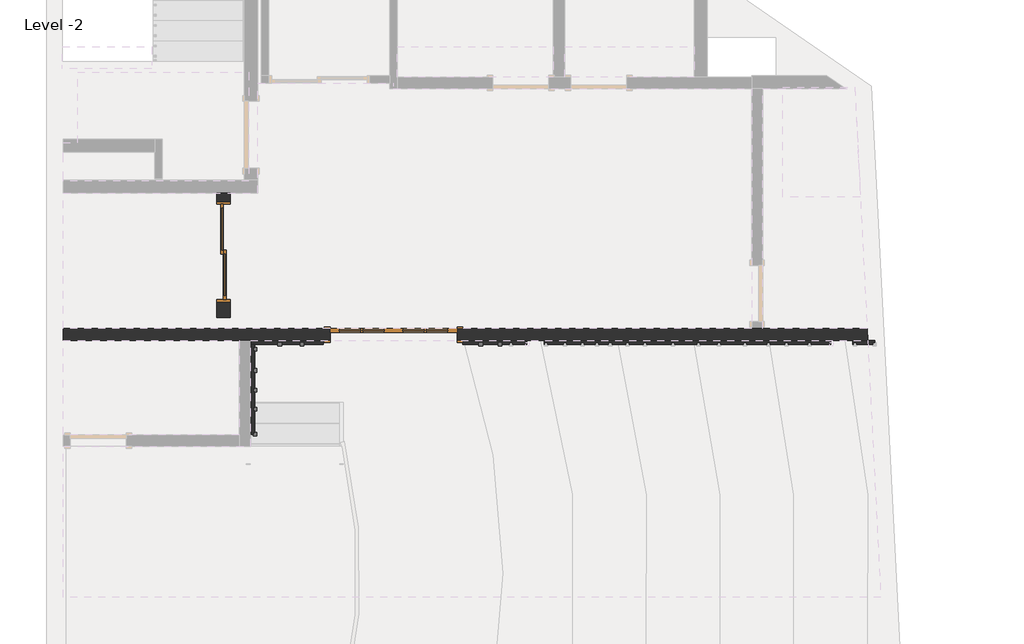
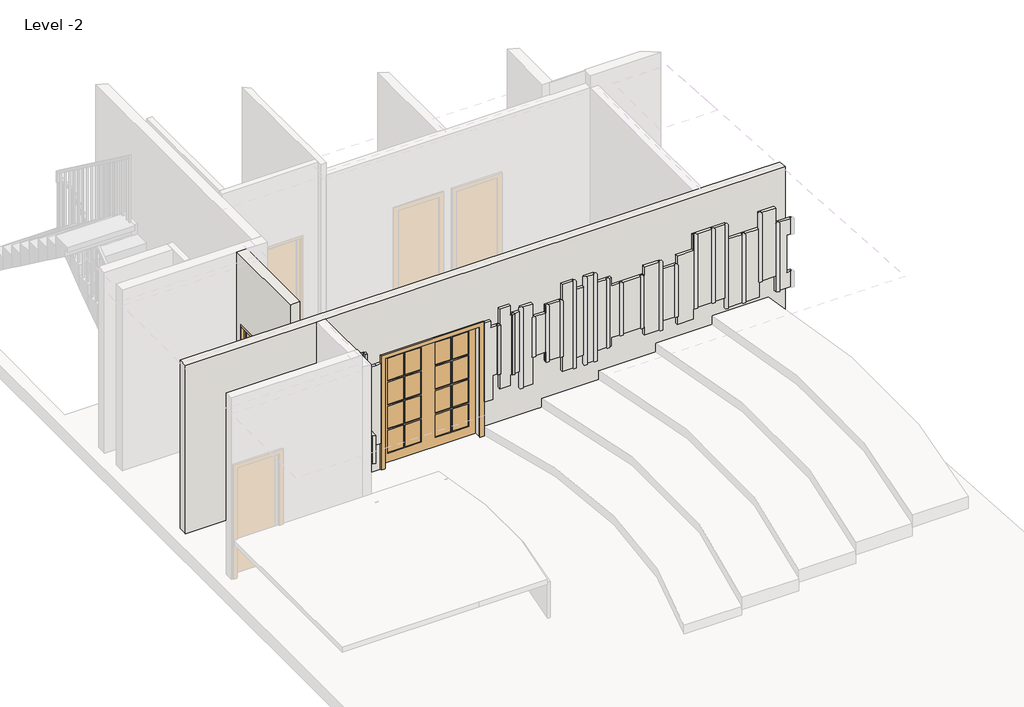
# One storey, part 3 of 6: 9 proxies, 4 walls, 2 doors.
"""IFC4 building model written with IfcOpenShell, lengths in millimetres."""

from ifc_helpers import new_model, si_unit, frame, origin, place, context, project, spatial, polyline, outline, extrude, faceted_brep, transform, mapped, element, save
from components import m_double_glass_2_1730_x_2134mm_148375e1, sliding_door_2_panel_aus_f73f6a40

model = new_model("IFC4")

# Units and contexts
model_context = context("Model", 3, world=origin())
ifc_project = project(units=[si_unit("LENGTHUNIT", "METRE", prefix="MILLI")], contexts=[model_context])

# Site, building, storey
site = spatial("IfcSite", under=ifc_project)
building = spatial("IfcBuilding", under=site)
storey = spatial("IfcBuildingStorey", under=building, Name="Level -2", Elevation=-7000.0)

# Proxies
placement = place(None, origin())
element("IfcBuildingElementProxy", 1, Name="Reveal", ObjectType="Reveal", at=placement, inside=storey, context=model_context, shape_type="SweptSolid", body=[
    extrude(outline(polyline([(3177.0430077, 6497.7142109), (3227.0430077, 6497.7142109), (3227.0430077, 6447.7142109), (3177.0430077, 6447.7142109), (3177.0430077, 6497.7142109)])), frame((0.0, 0.0, -6462.0582782), z_axis=(0.0, 0.0, 1.0), x_axis=(1.0, 0.0, 0.0)), (0.0, 0.0, 1.0), 1842.6614901),
])
element("IfcBuildingElementProxy", 2, Name="Reveal", ObjectType="Reveal", at=placement, inside=storey, context=model_context, shape_type="SweptSolid", body=[
    extrude(outline(polyline([(2877.0430077, 6497.7142109), (2927.0430077, 6497.7142109), (2927.0430077, 6447.7142109), (2877.0430077, 6447.7142109), (2877.0430077, 6497.7142109)])), frame((0.0, 0.0, -6162.0582782), z_axis=(0.0, 0.0, 1.0), x_axis=(1.0, 0.0, 0.0)), (0.0, 0.0, 1.0), 1542.6614901),
])
element("IfcBuildingElementProxy", 3, Name="Reveal", ObjectType="Reveal", at=placement, inside=storey, context=model_context, shape_type="SweptSolid", body=[
    extrude(outline(polyline([(5612.3539947, 6497.7142109), (5662.3539947, 6497.7142109), (5662.3539947, 6447.7142109), (5612.3539947, 6447.7142109), (5612.3539947, 6497.7142109)])), frame((0.0, 0.0, -5862.0582782), z_axis=(0.0, 0.0, 1.0), x_axis=(1.0, 0.0, 0.0)), (0.0, 0.0, 1.0), 942.6614901),
])
element("IfcBuildingElementProxy", 4, Name="Reveal", ObjectType="Reveal", at=placement, inside=storey, context=model_context, shape_type="SweptSolid", body=[
    extrude(outline(polyline([(5877.0430077, 6497.7142109), (5927.0430077, 6497.7142109), (5927.0430077, 6447.7142109), (5877.0430077, 6447.7142109), (5877.0430077, 6497.7142109)])), frame((0.0, 0.0, -5960.603212), z_axis=(0.0, 0.0, 1.0), x_axis=(1.0, 0.0, 0.0)), (0.0, 0.0, 1.0), 1161.206424),
])
element("IfcBuildingElementProxy", 5, Name="Reveal", ObjectType="Reveal", at=placement, inside=storey, context=model_context, shape_type="SweptSolid", body=[
    extrude(outline(polyline([(2537.3539947, 5222.7142109), (2537.3539947, 5272.7142109), (2587.3539947, 5272.7142109), (2587.3539947, 5222.7142109), (2537.3539947, 5222.7142109)])), frame((0.0, 0.0, -6241.0), z_axis=(0.0, 0.0, 1.0), x_axis=(1.0, 0.0, 0.0)), (0.0, 0.0, 1.0), 1741.0),
])
element("IfcBuildingElementProxy", 6, Name="Reveal", ObjectType="Reveal", at=placement, inside=storey, context=model_context, shape_type="SweptSolid", body=[
    extrude(outline(polyline([(2537.3539947, 5562.7142109), (2537.3539947, 5612.7142109), (2587.3539947, 5612.7142109), (2587.3539947, 5562.7142109), (2537.3539947, 5562.7142109)])), frame((0.0, 0.0, -5941.0), z_axis=(0.0, 0.0, 1.0), x_axis=(1.0, 0.0, 0.0)), (0.0, 0.0, 1.0), 1141.0),
])
element("IfcBuildingElementProxy", 7, Name="Reveal", ObjectType="Reveal", at=placement, inside=storey, context=model_context, shape_type="SweptSolid", body=[
    extrude(outline(polyline([(2537.3539947, 5822.7142109), (2537.3539947, 5872.7142109), (2587.3539947, 5872.7142109), (2587.3539947, 5822.7142109), (2537.3539947, 5822.7142109)])), frame((0.0, 0.0, -6341.0), z_axis=(0.0, 0.0, 1.0), x_axis=(1.0, 0.0, 0.0)), (0.0, 0.0, 1.0), 1941.0),
])
element("IfcBuildingElementProxy", 8, Name="Reveal", ObjectType="Reveal", at=placement, inside=storey, context=model_context, shape_type="SweptSolid", body=[
    extrude(outline(polyline([(2537.3539947, 6092.7142109), (2537.3539947, 6142.7142109), (2587.3539947, 6142.7142109), (2587.3539947, 6092.7142109), (2537.3539947, 6092.7142109)])), frame((0.0, 0.0, -6341.0), z_axis=(0.0, 0.0, 1.0), x_axis=(1.0, 0.0, 0.0)), (0.0, 0.0, 1.0), 1941.0),
])
element("IfcBuildingElementProxy", 9, Name="Reveal", ObjectType="Reveal", at=placement, inside=storey, context=model_context, shape_type="SweptSolid", body=[
    extrude(outline(polyline([(2537.3539947, 6382.7142109), (2537.3539947, 6432.7142109), (2587.3539947, 6432.7142109), (2587.3539947, 6382.7142109), (2537.3539947, 6382.7142109)])), frame((0.0, 0.0, -6041.0), z_axis=(0.0, 0.0, 1.0), x_axis=(1.0, 0.0, 0.0)), (0.0, 0.0, 1.0), 1341.0),
])

# Doors
m_double_glass_2_1730_x_2134mm_shape = m_double_glass_2_1730_x_2134mm_148375e1(model_context)
element("IfcDoor", 10, ObjectType="M_Double-Glass 2 : 1730 x 2134mm", at=placement, inside=storey, context=model_context, shape_type="MappedRepresentation", body=[
    mapped(m_double_glass_2_1730_x_2134mm_shape, transform((4451.0873915, 6606.33213, -7000.0), x_axis=(1.0, 0.0, 0.0), y_axis=(0.0, 1.0, 0.0), z_axis=(0.0, 0.0, 1.0))),
])
sliding_door_2_panel_aus_shape = sliding_door_2_panel_aus_f73f6a40(model_context)
element("IfcDoor", 11, ObjectType="Sliding Door - 2 Panel (AUS) : elavator door", at=placement, inside=storey, context=model_context, shape_type="MappedRepresentation", body=[
    mapped(sliding_door_2_panel_aus_shape, transform((2134.7837288, 7646.1973399, -7000.0), x_axis=(0.0, 1.0, 0.0), y_axis=(-1.0, 0.0, 0.0), z_axis=(0.0, 0.0, 1.0))),
])

# Walls
element("IfcWall", 12, ObjectType="kamposite5cm", at=placement, inside=storey, context=model_context, shape_type="Brep", body=[
    faceted_brep([(9202.0430077, 6472.7142109, -4430.7275331), (9202.0430077, 6472.7142109, -4730.7275331), (8902.0430077, 6472.7142109, -4730.7275331), (8902.0430077, 6472.7142109, -4890.7275331), (8907.0430077, 6472.7142109, -4890.7275331), (8907.0430077, 6472.7142109, -5890.7275331), (8902.0430077, 6472.7142109, -5890.7275331), (8902.0430077, 6472.7142109, -6050.7275331), (9202.0430077, 6472.7142109, -6050.7275331), (9202.0430077, 6472.7142109, -5850.7275331), (9212.3539947, 6472.7142109, -5850.7275331), (9212.3539947, 6472.7142109, -4430.7275331), (8302.0430077, 6472.7142109, -4730.7275331), (8302.0430077, 6472.7142109, -4890.7275331), (8282.3539947, 6472.7142109, -4890.7275331), (8282.3539947, 6472.7142109, -5890.7275331), (8302.0430077, 6472.7142109, -5890.7275331), (8302.0430077, 6472.7142109, -6050.7275331), (8577.0430077, 6472.7142109, -6050.7275331), (8577.0430077, 6472.7142109, -4730.7275331), (7702.0430077, 6472.7142109, -4890.7275331), (7702.0430077, 6472.7142109, -4730.7275331), (7662.3539947, 6472.7142109, -4730.7275331), (7662.3539947, 6472.7142109, -6050.7275331), (7702.0430077, 6472.7142109, -6050.7275331), (7702.0430077, 6472.7142109, -5890.7275331), (7852.3539947, 6472.7142109, -5890.7275331), (7852.3539947, 6472.7142109, -4890.7275331), (6802.0430077, 6472.7142109, -4550.7275331), (6802.0430077, 6472.7142109, -4850.7275331), (6812.0430077, 6472.7142109, -4850.7275331), (6812.0430077, 6472.7142109, -5930.7275331), (6802.0430077, 6472.7142109, -5930.7275331), (6802.0430077, 6472.7142109, -6230.7275331), (6997.0430077, 6472.7142109, -6230.7275331), (6997.0430077, 6472.7142109, -4550.7275331), (6502.0430077, 6472.7142109, -4850.7275331), (6502.0430077, 6472.7142109, -4990.7275331), (6302.0430077, 6472.7142109, -4990.7275331), (6302.0430077, 6472.7142109, -5750.7275331), (6502.0430077, 6472.7142109, -5750.7275331), (6502.0430077, 6472.7142109, -5930.7275331), (6502.3539947, 6472.7142109, -5930.7275331), (6502.3539947, 6472.7142109, -4850.7275331), (10402.0430077, 6472.7142109, -6050.7275331), (10402.0430077, 6472.7142109, -5750.7275331), (10392.3539947, 6472.7142109, -5750.7275331), (10392.3539947, 6472.7142109, -4730.7275331), (10142.3539947, 6472.7142109, -4730.7275331), (10142.3539947, 6472.7142109, -6050.7275331), (10702.0430077, 6472.7142109, -5750.7275331), (10702.0430077, 6472.7142109, -6050.7275331), (10712.3539947, 6472.7142109, -6050.7275331), (10712.3539947, 6472.7142109, -4730.7275331), (10702.0430077, 6472.7142109, -4730.7275331), (10702.0430077, 6472.7142109, -4430.7275331), (10442.3539947, 6472.7142109, -4430.7275331), (10442.3539947, 6472.7142109, -5750.7275331), (5662.0430077, 6472.7142109, -4919.396788), (5662.3539947, 6472.7142109, -4919.396788), (5662.3539947, 6472.7142109, -5862.0582782), (5662.0430077, 6472.7142109, -5862.0582782), (5662.0430077, 6472.7142109, -6162.0582782), (5851.8852546, 6472.7142109, -6162.0582782), (5851.8852546, 6472.7142109, -5960.603212), (5877.0430077, 6472.7142109, -5960.603212), (5877.0430077, 6472.7142109, -4799.396788), (5851.8852546, 6472.7142109, -4799.396788), (5851.8852546, 6472.7142109, -4619.396788), (5662.0430077, 6472.7142109, -4619.396788), (5612.3539947, 6472.7142109, -5862.0582782), (5612.3539947, 6472.7142109, -4919.396788), (5502.0430077, 6472.7142109, -4919.396788), (5502.0430077, 6472.7142109, -4799.396788), (5392.0873915, 6472.7142109, -4799.396788), (5392.0873915, 6472.7142109, -6319.396788), (5532.0873915, 6472.7142109, -6319.396788), (5532.0873915, 6472.7142109, -5862.0582782), (5927.0430077, 6472.7142109, -4799.396788), (5927.0430077, 6472.7142109, -5960.603212), (6027.0430077, 6472.7142109, -5960.603212), (6027.0430077, 6472.7142109, -4799.396788), (6762.0430077, 6472.7142109, -5930.7275331), (6762.0430077, 6472.7142109, -4850.7275331), (6552.3539947, 6472.7142109, -4850.7275331), (6552.3539947, 6472.7142109, -5930.7275331), (7197.0430077, 6472.7142109, -6050.7275331), (7197.0430077, 6472.7142109, -4730.7275331), (7047.0430077, 6472.7142109, -4730.7275331), (7047.0430077, 6472.7142109, -6050.7275331), (7247.0430077, 6472.7142109, -4550.7275331), (7247.0430077, 6472.7142109, -6230.7275331), (7377.0430077, 6472.7142109, -6230.7275331), (7377.0430077, 6472.7142109, -4550.7275331), (6252.0430077, 6472.7142109, -4990.7275331), (6262.0430077, 6472.7142109, -4990.7275331), (6262.0430077, 6472.7142109, -4730.7275331), (6077.0430077, 6472.7142109, -4730.7275331), (6077.0430077, 6472.7142109, -6282.0582782), (6262.0430077, 6472.7142109, -6282.0582782), (6262.0430077, 6472.7142109, -5750.7275331), (6252.0430077, 6472.7142109, -5750.7275331), (7612.3539947, 6472.7142109, -6050.7275331), (7612.3539947, 6472.7142109, -4730.7275331), (7427.0430077, 6472.7142109, -4730.7275331), (7427.0430077, 6472.7142109, -6050.7275331), (7902.3539947, 6472.7142109, -4890.7275331), (7902.3539947, 6472.7142109, -5890.7275331), (8232.3539947, 6472.7142109, -5890.7275331), (8232.3539947, 6472.7142109, -4890.7275331), (8627.0430077, 6472.7142109, -4890.7275331), (8627.0430077, 6472.7142109, -5890.7275331), (8857.0430077, 6472.7142109, -5890.7275331), (8857.0430077, 6472.7142109, -4890.7275331), (9532.3539947, 6472.7142109, -5850.7275331), (9532.3539947, 6472.7142109, -4430.7275331), (9262.3539947, 6472.7142109, -4430.7275331), (9262.3539947, 6472.7142109, -5850.7275331), (9582.3539947, 6472.7142109, -4430.7275331), (9582.3539947, 6472.7142109, -5850.7275331), (9777.0430077, 6472.7142109, -5850.7275331), (9777.0430077, 6472.7142109, -4430.7275331), (10092.3539947, 6472.7142109, -6050.7275331), (10092.3539947, 6472.7142109, -4730.7275331), (9827.0430077, 6472.7142109, -4730.7275331), (9827.0430077, 6472.7142109, -6050.7275331), (10762.3539947, 6472.7142109, -4730.7275331), (10762.3539947, 6472.7142109, -6050.7275331), (10977.0430077, 6472.7142109, -6050.7275331), (10977.0430077, 6472.7142109, -5750.7275331), (10910.9025531, 6472.7142109, -5750.7275331), (10910.9025531, 6472.7142109, -5030.7275331), (10977.0430077, 6472.7142109, -5030.7275331), (10977.0430077, 6472.7142109, -4730.7275331), (10402.0430077, 6522.7142109, -4730.7275331), (10402.0430077, 6522.7142109, -4430.7275331), (10702.0430077, 6522.7142109, -4430.7275331), (10702.0430077, 6522.7142109, -4730.7275331), (11002.0430077, 6522.7142109, -4730.7275331), (11002.0430077, 6522.7142109, -5030.7275331), (10908.3575114, 6522.7142109, -5030.7275331), (10908.3575114, 6522.7142109, -5750.7275331), (11002.0430077, 6522.7142109, -5750.7275331), (11002.0430077, 6522.7142109, -6050.7275331), (10702.0430077, 6522.7142109, -6050.7275331), (10702.0430077, 6522.7142109, -5750.7275331), (10402.0430077, 6522.7142109, -5750.7275331), (10402.0430077, 6522.7142109, -6050.7275331), (9802.0430077, 6522.7142109, -6050.7275331), (9802.0430077, 6522.7142109, -5850.7275331), (9202.0430077, 6522.7142109, -5850.7275331), (9202.0430077, 6522.7142109, -6050.7275331), (8902.0430077, 6522.7142109, -6050.7275331), (8902.0430077, 6522.7142109, -5890.7275331), (8602.0430077, 6522.7142109, -5890.7275331), (8602.0430077, 6522.7142109, -6050.7275331), (8302.0430077, 6522.7142109, -6050.7275331), (8302.0430077, 6522.7142109, -5890.7275331), (7702.0430077, 6522.7142109, -5890.7275331), (7702.0430077, 6522.7142109, -6050.7275331), (7402.0430077, 6522.7142109, -6050.7275331), (7402.0430077, 6522.7142109, -6230.7275331), (7222.0430077, 6522.7142109, -6230.7275331), (7222.0430077, 6522.7142109, -6050.7275331), (7022.0430077, 6522.7142109, -6050.7275331), (7022.0430077, 6522.7142109, -6230.7275331), (6802.0430077, 6522.7142109, -6230.7275331), (6802.0430077, 6522.7142109, -5930.7275331), (6502.0430077, 6522.7142109, -5930.7275331), (6502.0430077, 6522.7142109, -5750.7275331), (6262.0430077, 6522.7142109, -5750.7275331), (6262.0430077, 6522.7142109, -6282.0582782), (6051.8852546, 6522.7142109, -6282.0582782), (6051.8852546, 6522.7142109, -5960.603212), (5851.8852546, 6522.7142109, -5960.603212), (5851.8852546, 6522.7142109, -6162.0582782), (5662.0430077, 6522.7142109, -6162.0582782), (5662.0430077, 6522.7142109, -5862.0582782), (5532.0873915, 6522.7142109, -5862.0582782), (5532.0873915, 6522.7142109, -6319.396788), (5392.0873915, 6522.7142109, -6319.396788), (5392.0873915, 6522.7142109, -4799.396788), (5502.0430077, 6522.7142109, -4799.396788), (5502.0430077, 6522.7142109, -4919.396788), (5662.0430077, 6522.7142109, -4919.396788), (5662.0430077, 6522.7142109, -4619.396788), (5851.8852546, 6522.7142109, -4619.396788), (5851.8852546, 6522.7142109, -4799.396788), (6051.8852546, 6522.7142109, -4799.396788), (6051.8852546, 6522.7142109, -4730.7275331), (6262.0430077, 6522.7142109, -4730.7275331), (6262.0430077, 6522.7142109, -4990.7275331), (6502.0430077, 6522.7142109, -4990.7275331), (6502.0430077, 6522.7142109, -4850.7275331), (6802.0430077, 6522.7142109, -4850.7275331), (6802.0430077, 6522.7142109, -4550.7275331), (7022.0430077, 6522.7142109, -4550.7275331), (7022.0430077, 6522.7142109, -4730.7275331), (7222.0430077, 6522.7142109, -4730.7275331), (7222.0430077, 6522.7142109, -4550.7275331), (7402.0430077, 6522.7142109, -4550.7275331), (7402.0430077, 6522.7142109, -4730.7275331), (7702.0430077, 6522.7142109, -4730.7275331), (7702.0430077, 6522.7142109, -4890.7275331), (8302.0430077, 6522.7142109, -4890.7275331), (8302.0430077, 6522.7142109, -4730.7275331), (8602.0430077, 6522.7142109, -4730.7275331), (8602.0430077, 6522.7142109, -4890.7275331), (8902.0430077, 6522.7142109, -4890.7275331), (8902.0430077, 6522.7142109, -4730.7275331), (9202.0430077, 6522.7142109, -4730.7275331), (9202.0430077, 6522.7142109, -4430.7275331), (9802.0430077, 6522.7142109, -4430.7275331), (9802.0430077, 6522.7142109, -4730.7275331), (10402.0430077, 6497.7142109, -4730.7275331), (10402.0430077, 6497.7142109, -4430.7275331), (9802.0430077, 6497.7142109, -4730.7275331), (9827.0430077, 6497.7142109, -4730.7275331), (10092.3539947, 6497.7142109, -4730.7275331), (10142.3539947, 6497.7142109, -4730.7275331), (10392.3539947, 6497.7142109, -4730.7275331), (9802.0430077, 6497.7142109, -4430.7275331), (9212.3539947, 6497.7142109, -4430.7275331), (9262.3539947, 6497.7142109, -4430.7275331), (9532.3539947, 6497.7142109, -4430.7275331), (9582.3539947, 6497.7142109, -4430.7275331), (9777.0430077, 6497.7142109, -4430.7275331), (8902.0430077, 6497.7142109, -4890.7275331), (8602.0430077, 6497.7142109, -4890.7275331), (8627.0430077, 6497.7142109, -4890.7275331), (8857.0430077, 6497.7142109, -4890.7275331), (8602.0430077, 6497.7142109, -4730.7275331), (8577.0430077, 6497.7142109, -4730.7275331), (7852.3539947, 6497.7142109, -4890.7275331), (7902.3539947, 6497.7142109, -4890.7275331), (8232.3539947, 6497.7142109, -4890.7275331), (8282.3539947, 6497.7142109, -4890.7275331), (7402.0430077, 6497.7142109, -4730.7275331), (7427.0430077, 6497.7142109, -4730.7275331), (7612.3539947, 6497.7142109, -4730.7275331), (7662.3539947, 6497.7142109, -4730.7275331), (7402.0430077, 6497.7142109, -4550.7275331), (7222.0430077, 6497.7142109, -4550.7275331), (7247.0430077, 6497.7142109, -4550.7275331), (7377.0430077, 6497.7142109, -4550.7275331), (6802.0430077, 6497.7142109, -4850.7275331), (6502.3539947, 6497.7142109, -4850.7275331), (6552.3539947, 6497.7142109, -4850.7275331), (6762.0430077, 6497.7142109, -4850.7275331), (6262.0430077, 6497.7142109, -4990.7275331), (6302.0430077, 6497.7142109, -4990.7275331), (6302.0430077, 6497.7142109, -5750.7275331), (6262.0430077, 6497.7142109, -5750.7275331), (6802.0430077, 6497.7142109, -5930.7275331), (6762.0430077, 6497.7142109, -5930.7275331), (6552.3539947, 6497.7142109, -5930.7275331), (6502.3539947, 6497.7142109, -5930.7275331), (7402.0430077, 6497.7142109, -6230.7275331), (7377.0430077, 6497.7142109, -6230.7275331), (7247.0430077, 6497.7142109, -6230.7275331), (7222.0430077, 6497.7142109, -6230.7275331), (7402.0430077, 6497.7142109, -6050.7275331), (7662.3539947, 6497.7142109, -6050.7275331), (7612.3539947, 6497.7142109, -6050.7275331), (7427.0430077, 6497.7142109, -6050.7275331), (8282.3539947, 6497.7142109, -5890.7275331), (8232.3539947, 6497.7142109, -5890.7275331), (7902.3539947, 6497.7142109, -5890.7275331), (7852.3539947, 6497.7142109, -5890.7275331), (8602.0430077, 6497.7142109, -6050.7275331), (8577.0430077, 6497.7142109, -6050.7275331), (8602.0430077, 6497.7142109, -5890.7275331), (8902.0430077, 6497.7142109, -5890.7275331), (8857.0430077, 6497.7142109, -5890.7275331), (8627.0430077, 6497.7142109, -5890.7275331), (9802.0430077, 6497.7142109, -5850.7275331), (9777.0430077, 6497.7142109, -5850.7275331), (9582.3539947, 6497.7142109, -5850.7275331), (9532.3539947, 6497.7142109, -5850.7275331), (9262.3539947, 6497.7142109, -5850.7275331), (9212.3539947, 6497.7142109, -5850.7275331), (9802.0430077, 6497.7142109, -6050.7275331), (10142.3539947, 6497.7142109, -6050.7275331), (10092.3539947, 6497.7142109, -6050.7275331), (9827.0430077, 6497.7142109, -6050.7275331), (10402.0430077, 6497.7142109, -5750.7275331), (10442.3539947, 6497.7142109, -5750.7275331), (11002.0430077, 6497.7142109, -6050.7275331), (10977.0430077, 6497.7142109, -6050.7275331), (10762.3539947, 6497.7142109, -6050.7275331), (10712.3539947, 6497.7142109, -6050.7275331), (11002.0430077, 6497.7142109, -5750.7275331), (10977.0430077, 6497.7142109, -5750.7275331), (11002.0430077, 6497.7142109, -5030.7275331), (10977.0430077, 6497.7142109, -5030.7275331), (11002.0430077, 6497.7142109, -4730.7275331), (10712.3539947, 6497.7142109, -4730.7275331), (10762.3539947, 6497.7142109, -4730.7275331), (10977.0430077, 6497.7142109, -4730.7275331), (10442.3539947, 6497.7142109, -4430.7275331), (7222.0430077, 6497.7142109, -4730.7275331), (7022.0430077, 6497.7142109, -4730.7275331), (7047.0430077, 6497.7142109, -4730.7275331), (7197.0430077, 6497.7142109, -4730.7275331), (7022.0430077, 6497.7142109, -4550.7275331), (6997.0430077, 6497.7142109, -4550.7275331), (7022.0430077, 6497.7142109, -6230.7275331), (6997.0430077, 6497.7142109, -6230.7275331), (7022.0430077, 6497.7142109, -6050.7275331), (7222.0430077, 6497.7142109, -6050.7275331), (7197.0430077, 6497.7142109, -6050.7275331), (7047.0430077, 6497.7142109, -6050.7275331), (5662.3539947, 6497.7142109, -4919.396788), (5662.0430077, 6497.7142109, -4919.396788), (5662.3539947, 6497.7142109, -5862.0582782), (5662.0430077, 6497.7142109, -5862.0582782), (5612.3539947, 6497.7142109, -5862.0582782), (5612.3539947, 6497.7142109, -4919.396788), (5877.0430077, 6497.7142109, -5960.603212), (5877.0430077, 6497.7142109, -4799.396788), (5927.0430077, 6497.7142109, -4799.396788), (5927.0430077, 6497.7142109, -5960.603212), (6812.0430077, 6497.7142109, -4850.7275331), (6812.0430077, 6497.7142109, -5930.7275331), (6252.0430077, 6497.7142109, -4990.7275331), (6252.0430077, 6497.7142109, -5750.7275331), (6027.0430077, 6497.7142109, -5960.603212), (6027.0430077, 6497.7142109, -4799.396788), (6077.0430077, 6497.7142109, -4730.7275331), (6077.0430077, 6497.7142109, -6282.0582782), (6051.8852546, 6497.7142109, -4730.7275331), (6051.8852546, 6497.7142109, -4799.396788), (6051.8852546, 6497.7142109, -5960.603212), (6051.8852546, 6497.7142109, -6282.0582782), (8907.0430077, 6497.7142109, -4890.7275331), (8907.0430077, 6497.7142109, -5890.7275331), (10392.3539947, 6497.7142109, -5750.7275331)], [[[0, 1, 2, 3, 4, 5, 6, 7, 8, 9, 10, 11]], [[12, 13, 14, 15, 16, 17, 18, 19]], [[20, 21, 22, 23, 24, 25, 26, 27]], [[28, 29, 30, 31, 32, 33, 34, 35]], [[36, 37, 38, 39, 40, 41, 42, 43]], [[44, 45, 46, 47, 48, 49]], [[50, 51, 52, 53, 54, 55, 56, 57]], [[58, 59, 60, 61, 62, 63, 64, 65, 66, 67, 68, 69]], [[70, 71, 72, 73, 74, 75, 76, 77]], [[78, 79, 80, 81]], [[82, 83, 84, 85]], [[86, 87, 88, 89]], [[90, 91, 92, 93]], [[94, 95, 96, 97, 98, 99, 100, 101]], [[102, 103, 104, 105]], [[106, 107, 108, 109]], [[110, 111, 112, 113]], [[114, 115, 116, 117]], [[118, 119, 120, 121]], [[122, 123, 124, 125]], [[126, 127, 128, 129, 130, 131, 132, 133]], [[134, 135, 136, 137, 138, 139, 140, 141, 142, 143, 144, 145, 146, 147, 148, 149, 150, 151, 152, 153, 154, 155, 156, 157, 158, 159, 160, 161, 162, 163, 164, 165, 166, 167, 168, 169, 170, 171, 172, 173, 174, 175, 176, 177, 178, 179, 180, 181, 182, 183, 184, 185, 186, 187, 188, 189, 190, 191, 192, 193, 194, 195, 196, 197, 198, 199, 200, 201, 202, 203, 204, 205, 206, 207, 208, 209, 210, 211, 212, 213]], [[135, 134, 214, 215]], [[134, 213, 216, 217, 124, 123, 218, 219, 48, 47, 220, 214]], [[213, 212, 221, 216]], [[212, 211, 0, 11, 222, 223, 116, 115, 224, 225, 118, 121, 226, 221]], [[1, 0, 211, 210]], [[2, 1, 210, 209]], [[3, 2, 209, 208, 227]], [[208, 207, 228, 229, 110, 113, 230, 227]], [[207, 206, 231, 228]], [[206, 205, 12, 19, 232, 231]], [[13, 12, 205, 204]], [[204, 203, 20, 27, 233, 234, 106, 109, 235, 236, 14, 13]], [[21, 20, 203, 202]], [[202, 201, 237, 238, 104, 103, 239, 240, 22, 21]], [[201, 200, 241, 237]], [[200, 199, 242, 243, 90, 93, 244, 241]], [[29, 28, 195, 194, 245]], [[194, 193, 36, 43, 246, 247, 84, 83, 248, 245]], [[37, 36, 193, 192]], [[192, 191, 249, 250, 38, 37]], [[170, 169, 40, 39, 251, 252]], [[41, 40, 169, 168]], [[168, 167, 253, 254, 82, 85, 255, 256, 42, 41]], [[33, 32, 253, 167, 166]], [[162, 161, 257, 258, 92, 91, 259, 260]], [[161, 160, 261, 257]], [[160, 159, 24, 23, 262, 263, 102, 105, 264, 261]], [[25, 24, 159, 158]], [[158, 157, 16, 15, 265, 266, 108, 107, 267, 268, 26, 25]], [[17, 16, 157, 156]], [[156, 155, 269, 270, 18, 17]], [[155, 154, 271, 269]], [[154, 153, 272, 273, 112, 111, 274, 271]], [[7, 6, 272, 153, 152]], [[8, 7, 152, 151]], [[9, 8, 151, 150]], [[150, 149, 275, 276, 120, 119, 277, 278, 114, 117, 279, 280, 10, 9]], [[149, 148, 281, 275]], [[148, 147, 44, 49, 282, 283, 122, 125, 284, 281]], [[45, 44, 147, 146, 285]], [[146, 145, 50, 57, 286, 285]], [[51, 50, 145, 144]], [[144, 143, 287, 288, 128, 127, 289, 290, 52, 51]], [[143, 142, 291, 287]], [[142, 141, 130, 129, 292, 291]], [[140, 139, 293, 294, 132, 131]], [[139, 138, 295, 293]], [[138, 137, 54, 53, 296, 297, 126, 133, 298, 295]], [[55, 54, 137, 136]], [[136, 135, 215, 299, 56, 55]], [[199, 198, 300, 242]], [[198, 197, 301, 302, 88, 87, 303, 300]], [[197, 196, 304, 301]], [[196, 195, 28, 35, 305, 304]], [[166, 165, 306, 307, 34, 33]], [[165, 164, 308, 306]], [[164, 163, 309, 310, 86, 89, 311, 308]], [[163, 162, 260, 309]], [[312, 59, 58, 313]], [[60, 314, 315, 61]], [[316, 317, 71, 70]], [[312, 314, 60, 59]], [[317, 316, 315, 314, 312, 313]], [[318, 319, 66, 65]], [[320, 321, 79, 78]], [[319, 318, 321, 320]], [[322, 30, 29, 245]], [[31, 323, 253, 32]], [[254, 248, 83, 82]], [[322, 323, 31, 30]], [[248, 254, 253, 323, 322, 245]], [[303, 87, 86, 310]], [[243, 259, 91, 90]], [[259, 243, 242, 300, 303, 310, 309, 260]], [[307, 305, 35, 34]], [[88, 302, 311, 89]], [[305, 307, 306, 308, 311, 302, 301, 304]], [[256, 246, 43, 42]], [[247, 255, 85, 84]], [[246, 256, 255, 247]], [[94, 324, 249, 95]], [[325, 101, 100, 252]], [[325, 324, 94, 101]], [[250, 251, 39, 38]], [[324, 325, 252, 251, 250, 249]], [[81, 80, 326, 327]], [[328, 329, 98, 97]], [[329, 328, 330, 331, 327, 326, 332, 333]], [[263, 239, 103, 102]], [[240, 262, 23, 22]], [[239, 263, 262, 240]], [[258, 244, 93, 92]], [[104, 238, 264, 105]], [[244, 258, 257, 261, 264, 238, 237, 241]], [[268, 233, 27, 26]], [[234, 267, 107, 106]], [[233, 268, 267, 234]], [[266, 235, 109, 108]], [[236, 265, 15, 14]], [[235, 266, 265, 236]], [[270, 232, 19, 18]], [[110, 229, 274, 111]], [[232, 270, 269, 271, 274, 229, 228, 231]], [[334, 4, 3, 227]], [[5, 335, 272, 6]], [[273, 230, 113, 112]], [[334, 335, 5, 4]], [[230, 273, 272, 335, 334, 227]], [[278, 224, 115, 114]], [[225, 277, 119, 118]], [[224, 278, 277, 225]], [[280, 222, 11, 10]], [[223, 279, 117, 116]], [[222, 280, 279, 223]], [[336, 46, 45, 285]], [[46, 336, 220, 47]], [[299, 286, 57, 56]], [[286, 299, 215, 214, 220, 336, 285]], [[283, 218, 123, 122]], [[219, 282, 49, 48]], [[218, 283, 282, 219]], [[226, 121, 120, 276]], [[217, 284, 125, 124]], [[284, 217, 216, 221, 226, 276, 275, 281]], [[290, 296, 53, 52]], [[297, 289, 127, 126]], [[296, 290, 289, 297]], [[294, 298, 133, 132]], [[298, 294, 293, 295]], [[131, 130, 141, 140]], [[288, 292, 129, 128]], [[292, 288, 287, 291]], [[96, 95, 249, 191, 190]], [[190, 189, 330, 328, 97, 96]], [[189, 188, 331, 330]], [[188, 187, 67, 66, 319, 320, 78, 81, 327, 331]], [[68, 67, 187, 186]], [[69, 68, 186, 185]], [[58, 69, 185, 184, 313]], [[184, 183, 72, 71, 317, 313]], [[73, 72, 183, 182]], [[74, 73, 182, 181]], [[75, 74, 181, 180]], [[76, 75, 180, 179]], [[77, 76, 179, 178]], [[178, 177, 315, 316, 70, 77]], [[62, 61, 315, 177, 176]], [[63, 62, 176, 175]], [[64, 63, 175, 174]], [[174, 173, 332, 326, 80, 79, 321, 318, 65, 64]], [[173, 172, 333, 332]], [[172, 171, 99, 98, 329, 333]], [[100, 99, 171, 170, 252]]]),
    faceted_brep([(3402.0430077, 6472.7142109, -4919.396788), (3227.0430077, 6472.7142109, -4919.396788), (3227.0430077, 6472.7142109, -6462.0582782), (3492.3539947, 6472.7142109, -6462.0582782), (3492.3539947, 6472.7142109, -4919.396788), (3177.0430077, 6472.7142109, -6162.0582782), (3177.0430077, 6472.7142109, -4619.396788), (2927.0430077, 6472.7142109, -4619.396788), (2927.0430077, 6472.7142109, -6162.0582782), (2877.0430077, 6472.7142109, -4919.396788), (2797.3539947, 6472.7142109, -4919.396788), (2797.3539947, 6472.7142109, -5119.396788), (2637.3539947, 6472.7142109, -5119.396788), (2637.3539947, 6472.7142109, -4919.396788), (2512.3539947, 6472.7142109, -4919.396788), (2512.3539947, 6472.7142109, -5862.0582782), (2637.3539947, 6472.7142109, -5862.0582782), (2637.3539947, 6472.7142109, -6079.396788), (2797.3539947, 6472.7142109, -6079.396788), (2797.3539947, 6472.7142109, -5862.0582782), (2877.0430077, 6472.7142109, -5862.0582782), (3202.0430077, 6522.7142109, -4919.396788), (3402.0430077, 6522.7142109, -4919.396788), (3492.3539947, 6522.7142109, -4919.396788), (3492.3539947, 6522.7142109, -6462.0582782), (3202.0430077, 6522.7142109, -6462.0582782), (3202.0430077, 6522.7142109, -6162.0582782), (2902.0430077, 6522.7142109, -6162.0582782), (2902.0430077, 6522.7142109, -5862.0582782), (2797.3539947, 6522.7142109, -5862.0582782), (2797.3539947, 6522.7142109, -6079.396788), (2637.3539947, 6522.7142109, -6079.396788), (2637.3539947, 6522.7142109, -5862.0582782), (2512.3539947, 6522.7142109, -5862.0582782), (2512.3539947, 6522.7142109, -4919.396788), (2637.3539947, 6522.7142109, -4919.396788), (2637.3539947, 6522.7142109, -5119.396788), (2797.3539947, 6522.7142109, -5119.396788), (2797.3539947, 6522.7142109, -4919.396788), (2902.0430077, 6522.7142109, -4919.396788), (2902.0430077, 6522.7142109, -4619.396788), (3202.0430077, 6522.7142109, -4619.396788), (3202.0430077, 6497.7142109, -4919.396788), (3227.0430077, 6497.7142109, -4919.396788), (3202.0430077, 6497.7142109, -4619.396788), (2902.0430077, 6497.7142109, -4619.396788), (2927.0430077, 6497.7142109, -4619.396788), (3177.0430077, 6497.7142109, -4619.396788), (2902.0430077, 6497.7142109, -4919.396788), (2877.0430077, 6497.7142109, -4919.396788), (2902.0430077, 6497.7142109, -5862.0582782), (2877.0430077, 6497.7142109, -5862.0582782), (2902.0430077, 6497.7142109, -6162.0582782), (3202.0430077, 6497.7142109, -6162.0582782), (3177.0430077, 6497.7142109, -6162.0582782), (2927.0430077, 6497.7142109, -6162.0582782), (3202.0430077, 6497.7142109, -6462.0582782), (3227.0430077, 6497.7142109, -6462.0582782)], [[[0, 1, 2, 3, 4]], [[5, 6, 7, 8]], [[9, 10, 11, 12, 13, 14, 15, 16, 17, 18, 19, 20]], [[21, 22, 23, 24, 25, 26, 27, 28, 29, 30, 31, 32, 33, 34, 35, 36, 37, 38, 39, 40, 41]], [[22, 21, 42, 43, 1, 0]], [[21, 41, 44, 42]], [[41, 40, 45, 46, 7, 6, 47, 44]], [[40, 39, 48, 45]], [[39, 38, 10, 9, 49, 48]], [[29, 28, 50, 51, 20, 19]], [[28, 27, 52, 50]], [[27, 26, 53, 54, 5, 8, 55, 52]], [[26, 25, 56, 53]], [[25, 24, 3, 2, 57, 56]], [[54, 47, 6, 5]], [[1, 43, 57, 2]], [[47, 54, 53, 56, 57, 43, 42, 44]], [[49, 9, 20, 51]], [[46, 55, 8, 7]], [[55, 46, 45, 48, 49, 51, 50, 52]], [[11, 10, 38, 37]], [[12, 11, 37, 36]], [[13, 12, 36, 35]], [[14, 13, 35, 34]], [[16, 15, 33, 32]], [[17, 16, 32, 31]], [[18, 17, 31, 30]], [[19, 18, 30, 29]], [[4, 3, 24, 23]], [[0, 4, 23, 22]], [[15, 14, 34, 33]]]),
])
element("IfcWall", 13, ObjectType="kamposite5cm", at=placement, inside=storey, context=model_context, shape_type="Brep", body=[
    faceted_brep([(2562.3539947, 5027.7142109, -5100.0), (2562.3539947, 5027.7142109, -5641.0), (2562.3539947, 5222.7142109, -5641.0), (2562.3539947, 5222.7142109, -5100.0), (2562.3539947, 5547.7142109, -6241.0), (2562.3539947, 5547.7142109, -5941.0), (2562.3539947, 5562.7142109, -5941.0), (2562.3539947, 5562.7142109, -4800.0), (2562.3539947, 5547.7142109, -4800.0), (2562.3539947, 5547.7142109, -4500.0), (2562.3539947, 5272.7142109, -4500.0), (2562.3539947, 5272.7142109, -6241.0), (2562.3539947, 6147.7142109, -6341.0), (2562.3539947, 6147.7142109, -6041.0), (2562.3539947, 6382.7142109, -6041.0), (2562.3539947, 6382.7142109, -4700.0), (2562.3539947, 6147.7142109, -4700.0), (2562.3539947, 6147.7142109, -4400.0), (2562.3539947, 6142.7142109, -4400.0), (2562.3539947, 6142.7142109, -6341.0), (2562.3539947, 5612.7142109, -4800.0), (2562.3539947, 5612.7142109, -5941.0), (2562.3539947, 5822.7142109, -5941.0), (2562.3539947, 5822.7142109, -4800.0), (2562.3539947, 5872.7142109, -4400.0), (2562.3539947, 5872.7142109, -6341.0), (2562.3539947, 6092.7142109, -6341.0), (2562.3539947, 6092.7142109, -4400.0), (2562.3539947, 6472.7142109, -6041.0), (2562.3539947, 6472.7142109, -4700.0), (2562.3539947, 6432.7142109, -4700.0), (2562.3539947, 6432.7142109, -6041.0), (2512.3539947, 5027.7142109, -5641.0), (2512.3539947, 5027.7142109, -5100.0), (2512.3539947, 5247.7142109, -5100.0), (2512.3539947, 5247.7142109, -4500.0), (2512.3539947, 5547.7142109, -4500.0), (2512.3539947, 5547.7142109, -4800.0), (2512.3539947, 5847.7142109, -4800.0), (2512.3539947, 5847.7142109, -4400.0), (2512.3539947, 6147.7142109, -4400.0), (2512.3539947, 6147.7142109, -4700.0), (2512.3539947, 6472.7142109, -4700.0), (2512.3539947, 6472.7142109, -4919.396788), (2512.3539947, 6472.7142109, -5862.0582782), (2512.3539947, 6472.7142109, -6041.0), (2512.3539947, 6147.7142109, -6041.0), (2512.3539947, 6147.7142109, -6341.0), (2512.3539947, 5847.7142109, -6341.0), (2512.3539947, 5847.7142109, -5941.0), (2512.3539947, 5547.7142109, -5941.0), (2512.3539947, 5547.7142109, -6241.0), (2512.3539947, 5247.7142109, -6241.0), (2512.3539947, 5247.7142109, -5641.0), (2537.3539947, 5247.7142109, -5641.0), (2537.3539947, 5222.7142109, -5641.0), (2537.3539947, 5247.7142109, -6241.0), (2537.3539947, 5272.7142109, -6241.0), (2537.3539947, 5847.7142109, -5941.0), (2537.3539947, 5822.7142109, -5941.0), (2537.3539947, 5612.7142109, -5941.0), (2537.3539947, 5562.7142109, -5941.0), (2537.3539947, 5847.7142109, -6341.0), (2537.3539947, 6142.7142109, -6341.0), (2537.3539947, 6092.7142109, -6341.0), (2537.3539947, 5872.7142109, -6341.0), (2537.3539947, 6432.7142109, -6041.0), (2537.3539947, 6382.7142109, -6041.0), (2537.3539947, 6382.7142109, -4700.0), (2537.3539947, 6432.7142109, -4700.0), (2537.3539947, 5847.7142109, -4400.0), (2537.3539947, 5872.7142109, -4400.0), (2537.3539947, 6092.7142109, -4400.0), (2537.3539947, 6142.7142109, -4400.0), (2537.3539947, 5847.7142109, -4800.0), (2537.3539947, 5562.7142109, -4800.0), (2537.3539947, 5612.7142109, -4800.0), (2537.3539947, 5822.7142109, -4800.0), (2537.3539947, 5247.7142109, -4500.0), (2537.3539947, 5272.7142109, -4500.0), (2537.3539947, 5247.7142109, -5100.0), (2537.3539947, 5222.7142109, -5100.0)], [[[0, 1, 2, 3]], [[4, 5, 6, 7, 8, 9, 10, 11]], [[12, 13, 14, 15, 16, 17, 18, 19]], [[20, 21, 22, 23]], [[24, 25, 26, 27]], [[28, 29, 30, 31]], [[32, 33, 34, 35, 36, 37, 38, 39, 40, 41, 42, 43, 44, 45, 46, 47, 48, 49, 50, 51, 52, 53]], [[1, 0, 33, 32]], [[32, 53, 54, 55, 2, 1]], [[53, 52, 56, 54]], [[52, 51, 4, 11, 57, 56]], [[5, 4, 51, 50]], [[50, 49, 58, 59, 22, 21, 60, 61, 6, 5]], [[49, 48, 62, 58]], [[48, 47, 12, 19, 63, 64, 26, 25, 65, 62]], [[13, 12, 47, 46]], [[46, 45, 28, 31, 66, 67, 14, 13]], [[42, 41, 16, 15, 68, 69, 30, 29]], [[17, 16, 41, 40]], [[40, 39, 70, 71, 24, 27, 72, 73, 18, 17]], [[39, 38, 74, 70]], [[38, 37, 8, 7, 75, 76, 20, 23, 77, 74]], [[9, 8, 37, 36]], [[36, 35, 78, 79, 10, 9]], [[35, 34, 80, 78]], [[34, 33, 0, 3, 81, 80]], [[2, 55, 81, 3]], [[79, 57, 11, 10]], [[57, 79, 78, 80, 81, 55, 54, 56]], [[61, 75, 7, 6]], [[76, 60, 21, 20]], [[75, 61, 60, 76]], [[22, 59, 77, 23]], [[71, 65, 25, 24]], [[65, 71, 70, 74, 77, 59, 58, 62]], [[64, 72, 27, 26]], [[73, 63, 19, 18]], [[72, 64, 63, 73]], [[67, 68, 15, 14]], [[69, 66, 31, 30]], [[68, 67, 66, 69]], [[29, 28, 45, 44, 43, 42]]]),
])
element("IfcWall", 14, ObjectType="Generic - 18cm-gypsu-2boith 2", at=placement, inside=storey, context=model_context, shape_type="SweptSolid", body=[
    extrude(outline(polyline([(6841.9670663, -7000.0), (6841.9670663, -3500.0), (8531.9436159, -3500.0), (8531.9436159, -7000.0), (8421.9553411, -7000.0), (8421.9553411, -4817.0), (7041.9553411, -4817.0), (7041.9553411, -7000.0), (6841.9670663, -7000.0)])), frame((2044.7837288, 0.0, 0.0), z_axis=(1.0, 0.0, 0.0), x_axis=(0.0, 1.0, 0.0)), (0.0, 0.0, 1.0), 180.0),
])
element("IfcWall", 15, ObjectType="Generic - 20cm-granit2side", at=placement, inside=storey, context=model_context, shape_type="Brep", body=[
    faceted_brep([(10900.0292232, 6686.33213, -7000.0), (9476.0873915, 6686.33213, -7000.0), (9326.0873915, 6686.33213, -7000.0), (5316.0873915, 6686.33213, -7000.0), (5316.0873915, 6686.33213, -4866.0), (3586.0873915, 6686.33213, -4866.0), (3586.0873915, 6686.33213, -7000.0), (-50.0290025, 6686.33213, -7000.0), (-50.0290025, 6686.33213, -3741.0), (9326.0873915, 6686.33213, -3741.0), (9476.0873915, 6686.33213, -3741.0), (10900.0292232, 6686.33213, -3741.0), (5316.0873915, 6526.33213, -7000.0), (10908.1733563, 6526.33213, -7000.0), (10908.1733563, 6526.33213, -3741.0), (2506.6368117, 6526.33213, -3741.0), (2346.6368117, 6526.33213, -3741.0), (-50.0290025, 6526.33213, -3741.0), (-50.0290025, 6526.33213, -7000.0), (2346.6368117, 6526.33213, -7000.0), (2506.6368117, 6526.33213, -7000.0), (3586.0873915, 6526.33213, -7000.0), (3586.0873915, 6526.33213, -4866.0), (5316.0873915, 6526.33213, -4866.0)], [[[0, 1, 2, 3, 4, 5, 6, 7, 8, 9, 10, 11]], [[12, 13, 14, 15, 16, 17, 18, 19, 20, 21, 22, 23]], [[0, 13, 12, 3, 2, 1]], [[18, 7, 6, 21, 20, 19]], [[13, 0, 11, 14]], [[7, 18, 17, 8]], [[23, 4, 3, 12]], [[4, 23, 22, 5]], [[5, 22, 21, 6]], [[11, 10, 9, 8, 17, 16, 15, 14]]]),
])

save(model, "model.ifc")
